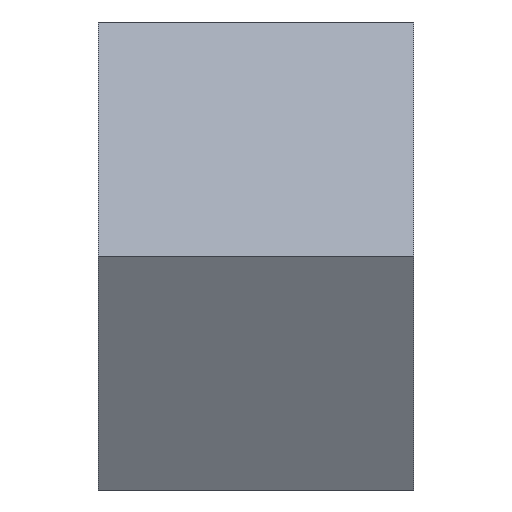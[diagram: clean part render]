
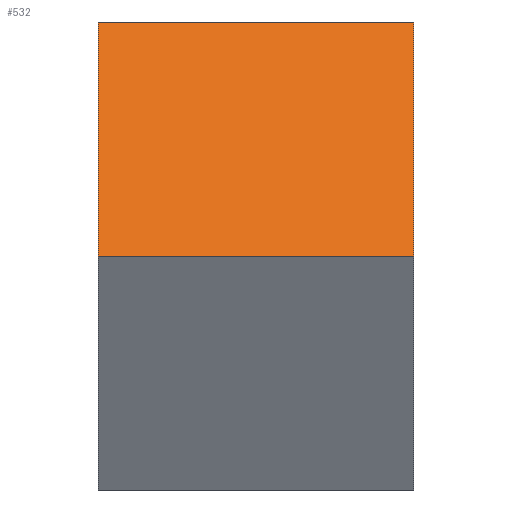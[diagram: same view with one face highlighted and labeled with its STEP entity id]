
A CAD part, left-side view. The second image highlights one B-rep face of the part: STEP entity #532.
In plain terms, the highlighted planar face has unit normal (-0.866, 0, 0.5).
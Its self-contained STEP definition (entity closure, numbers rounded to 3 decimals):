
#72 = PLANE('',#73);
#73 = AXIS2_PLACEMENT_3D('',#74,#75,#76);
#74 = CARTESIAN_POINT('',(248.5,91.5,33.));
#75 = DIRECTION('',(-0.,-1.,-0.));
#76 = DIRECTION('',(0.,0.,-1.));
#100 = PLANE('',#101);
#101 = AXIS2_PLACEMENT_3D('',#102,#103,#104);
#102 = CARTESIAN_POINT('',(251.5,98.5,38.196));
#103 = DIRECTION('',(-0.,-0.,-1.));
#104 = DIRECTION('',(-1.,0.,0.));
#126 = PLANE('',#127);
#127 = AXIS2_PLACEMENT_3D('',#128,#129,#130);
#128 = CARTESIAN_POINT('',(248.5,98.5,33.));
#129 = DIRECTION('',(-0.,-1.,-0.));
#130 = DIRECTION('',(0.,0.,-1.));
#219 = VERTEX_POINT('',#220);
#220 = CARTESIAN_POINT('',(245.5,91.5,38.196));
#241 = EDGE_CURVE('',#242,#219,#244,.T.);
#242 = VERTEX_POINT('',#243);
#243 = CARTESIAN_POINT('',(245.5,98.5,38.196));
#244 = SURFACE_CURVE('',#245,(#249,#256),.PCURVE_S1.);
#245 = LINE('',#246,#247);
#246 = CARTESIAN_POINT('',(245.5,98.5,38.196));
#247 = VECTOR('',#248,1.);
#248 = DIRECTION('',(0.,-1.,0.));
#249 = PCURVE('',#100,#250);
#250 = DEFINITIONAL_REPRESENTATION('',(#251),#255);
#251 = LINE('',#252,#253);
#252 = CARTESIAN_POINT('',(6.,0.));
#253 = VECTOR('',#254,1.);
#254 = DIRECTION('',(0.,-1.));
#255 = ( GEOMETRIC_REPRESENTATION_CONTEXT(2) 
PARAMETRIC_REPRESENTATION_CONTEXT() REPRESENTATION_CONTEXT('2D SPACE',''
  ) );
#256 = PCURVE('',#257,#262);
#257 = PLANE('',#258);
#258 = AXIS2_PLACEMENT_3D('',#259,#260,#261);
#259 = CARTESIAN_POINT('',(245.5,98.5,38.196));
#260 = DIRECTION('',(0.866,0.,-0.5));
#261 = DIRECTION('',(-0.5,-0.,-0.866));
#262 = DEFINITIONAL_REPRESENTATION('',(#263),#267);
#263 = LINE('',#264,#265);
#264 = CARTESIAN_POINT('',(-0.,0.));
#265 = VECTOR('',#266,1.);
#266 = DIRECTION('',(0.,-1.));
#267 = ( GEOMETRIC_REPRESENTATION_CONTEXT(2) 
PARAMETRIC_REPRESENTATION_CONTEXT() REPRESENTATION_CONTEXT('2D SPACE',''
  ) );
#295 = EDGE_CURVE('',#242,#296,#298,.T.);
#296 = VERTEX_POINT('',#297);
#297 = CARTESIAN_POINT('',(242.5,98.5,33.));
#298 = SURFACE_CURVE('',#299,(#303,#310),.PCURVE_S1.);
#299 = LINE('',#300,#301);
#300 = CARTESIAN_POINT('',(245.5,98.5,38.196));
#301 = VECTOR('',#302,1.);
#302 = DIRECTION('',(-0.5,-0.,-0.866));
#303 = PCURVE('',#126,#304);
#304 = DEFINITIONAL_REPRESENTATION('',(#305),#309);
#305 = LINE('',#306,#307);
#306 = CARTESIAN_POINT('',(-5.196,-3.));
#307 = VECTOR('',#308,1.);
#308 = DIRECTION('',(0.866,-0.5));
#309 = ( GEOMETRIC_REPRESENTATION_CONTEXT(2) 
PARAMETRIC_REPRESENTATION_CONTEXT() REPRESENTATION_CONTEXT('2D SPACE',''
  ) );
#310 = PCURVE('',#257,#311);
#311 = DEFINITIONAL_REPRESENTATION('',(#312),#316);
#312 = LINE('',#313,#314);
#313 = CARTESIAN_POINT('',(-0.,0.));
#314 = VECTOR('',#315,1.);
#315 = DIRECTION('',(1.,0.));
#316 = ( GEOMETRIC_REPRESENTATION_CONTEXT(2) 
PARAMETRIC_REPRESENTATION_CONTEXT() REPRESENTATION_CONTEXT('2D SPACE',''
  ) );
#334 = PLANE('',#335);
#335 = AXIS2_PLACEMENT_3D('',#336,#337,#338);
#336 = CARTESIAN_POINT('',(242.5,98.5,33.));
#337 = DIRECTION('',(0.866,0.,0.5));
#338 = DIRECTION('',(0.5,0.,-0.866));
#408 = EDGE_CURVE('',#219,#409,#411,.T.);
#409 = VERTEX_POINT('',#410);
#410 = CARTESIAN_POINT('',(242.5,91.5,33.));
#411 = SURFACE_CURVE('',#412,(#416,#423),.PCURVE_S1.);
#412 = LINE('',#413,#414);
#413 = CARTESIAN_POINT('',(245.5,91.5,38.196));
#414 = VECTOR('',#415,1.);
#415 = DIRECTION('',(-0.5,-0.,-0.866));
#416 = PCURVE('',#72,#417);
#417 = DEFINITIONAL_REPRESENTATION('',(#418),#422);
#418 = LINE('',#419,#420);
#419 = CARTESIAN_POINT('',(-5.196,-3.));
#420 = VECTOR('',#421,1.);
#421 = DIRECTION('',(0.866,-0.5));
#422 = ( GEOMETRIC_REPRESENTATION_CONTEXT(2) 
PARAMETRIC_REPRESENTATION_CONTEXT() REPRESENTATION_CONTEXT('2D SPACE',''
  ) );
#423 = PCURVE('',#257,#424);
#424 = DEFINITIONAL_REPRESENTATION('',(#425),#429);
#425 = LINE('',#426,#427);
#426 = CARTESIAN_POINT('',(0.,-7.));
#427 = VECTOR('',#428,1.);
#428 = DIRECTION('',(1.,0.));
#429 = ( GEOMETRIC_REPRESENTATION_CONTEXT(2) 
PARAMETRIC_REPRESENTATION_CONTEXT() REPRESENTATION_CONTEXT('2D SPACE',''
  ) );
#532 = ADVANCED_FACE('',(#533),#257,.F.);
#533 = FACE_BOUND('',#534,.F.);
#534 = EDGE_LOOP('',(#535,#536,#537,#558));
#535 = ORIENTED_EDGE('',*,*,#241,.T.);
#536 = ORIENTED_EDGE('',*,*,#408,.T.);
#537 = ORIENTED_EDGE('',*,*,#538,.F.);
#538 = EDGE_CURVE('',#296,#409,#539,.T.);
#539 = SURFACE_CURVE('',#540,(#544,#551),.PCURVE_S1.);
#540 = LINE('',#541,#542);
#541 = CARTESIAN_POINT('',(242.5,98.5,33.));
#542 = VECTOR('',#543,1.);
#543 = DIRECTION('',(0.,-1.,0.));
#544 = PCURVE('',#257,#545);
#545 = DEFINITIONAL_REPRESENTATION('',(#546),#550);
#546 = LINE('',#547,#548);
#547 = CARTESIAN_POINT('',(6.,0.));
#548 = VECTOR('',#549,1.);
#549 = DIRECTION('',(0.,-1.));
#550 = ( GEOMETRIC_REPRESENTATION_CONTEXT(2) 
PARAMETRIC_REPRESENTATION_CONTEXT() REPRESENTATION_CONTEXT('2D SPACE',''
  ) );
#551 = PCURVE('',#334,#552);
#552 = DEFINITIONAL_REPRESENTATION('',(#553),#557);
#553 = LINE('',#554,#555);
#554 = CARTESIAN_POINT('',(0.,0.));
#555 = VECTOR('',#556,1.);
#556 = DIRECTION('',(0.,-1.));
#557 = ( GEOMETRIC_REPRESENTATION_CONTEXT(2) 
PARAMETRIC_REPRESENTATION_CONTEXT() REPRESENTATION_CONTEXT('2D SPACE',''
  ) );
#558 = ORIENTED_EDGE('',*,*,#295,.F.);
